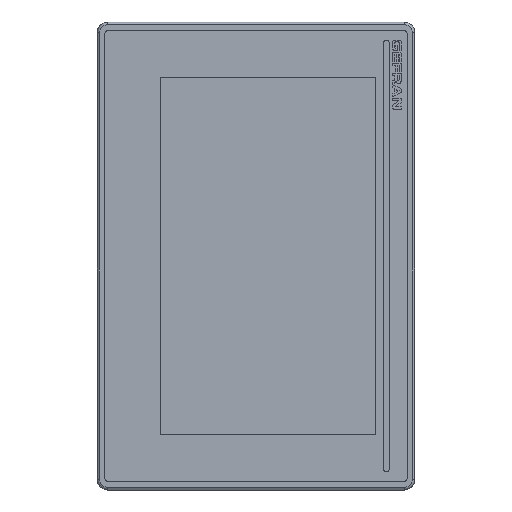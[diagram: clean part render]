
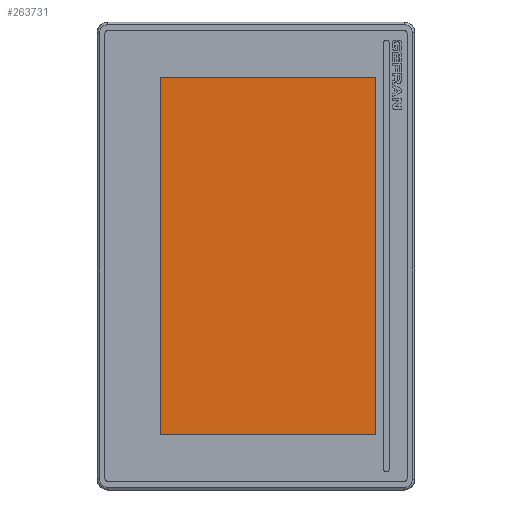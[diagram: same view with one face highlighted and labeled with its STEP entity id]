
A CAD part, top view. The second image highlights one B-rep face of the part: STEP entity #263731.
In plain terms, the highlighted planar face has unit normal (0, 0, 1).
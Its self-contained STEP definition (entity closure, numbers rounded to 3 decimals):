
#261432=DIRECTION('',(0.,-1.,0.));
#261433=VECTOR('',#261432,91.2);
#261434=CARTESIAN_POINT('',(75.7,50.6,0.1));
#261435=LINE('',#261434,#261433);
#261439=DIRECTION('',(-1.,0.,0.));
#261440=VECTOR('',#261439,151.4);
#261441=CARTESIAN_POINT('',(75.7,-40.6,0.1));
#261442=LINE('',#261441,#261440);
#261446=DIRECTION('',(0.,1.,0.));
#261447=VECTOR('',#261446,91.2);
#261448=CARTESIAN_POINT('',(-75.7,-40.6,0.1));
#261449=LINE('',#261448,#261447);
#261453=DIRECTION('',(1.,0.,0.));
#261454=VECTOR('',#261453,151.4);
#261455=CARTESIAN_POINT('',(-75.7,50.6,0.1));
#261456=LINE('',#261455,#261454);
#262766=CARTESIAN_POINT('',(75.7,50.6,0.1));
#262767=CARTESIAN_POINT('',(75.7,-40.6,0.1));
#262768=VERTEX_POINT('',#262766);
#262769=VERTEX_POINT('',#262767);
#262770=CARTESIAN_POINT('',(-75.7,-40.6,0.1));
#262771=VERTEX_POINT('',#262770);
#262772=CARTESIAN_POINT('',(-75.7,50.6,0.1));
#262773=VERTEX_POINT('',#262772);
#263720=CARTESIAN_POINT('',(0.,0.,0.1));
#263721=DIRECTION('',(0.,0.,-1.));
#263722=DIRECTION('',(-1.,0.,0.));
#263723=AXIS2_PLACEMENT_3D('',#263720,#263721,#263722);
#263724=PLANE('',#263723);
#263725=ORIENTED_EDGE('',*,*,#263672,.T.);
#263726=ORIENTED_EDGE('',*,*,#263687,.T.);
#263727=ORIENTED_EDGE('',*,*,#263701,.T.);
#263728=ORIENTED_EDGE('',*,*,#263714,.T.);
#263729=EDGE_LOOP('',(#263725,#263726,#263727,#263728));
#263730=FACE_OUTER_BOUND('',#263729,.F.);
#263672=EDGE_CURVE('',#262768,#262769,#261435,.T.);
#263687=EDGE_CURVE('',#262769,#262771,#261442,.T.);
#263701=EDGE_CURVE('',#262771,#262773,#261449,.T.);
#263714=EDGE_CURVE('',#262773,#262768,#261456,.T.);
#263731=ADVANCED_FACE('',(#263730),#263724,.F.);
